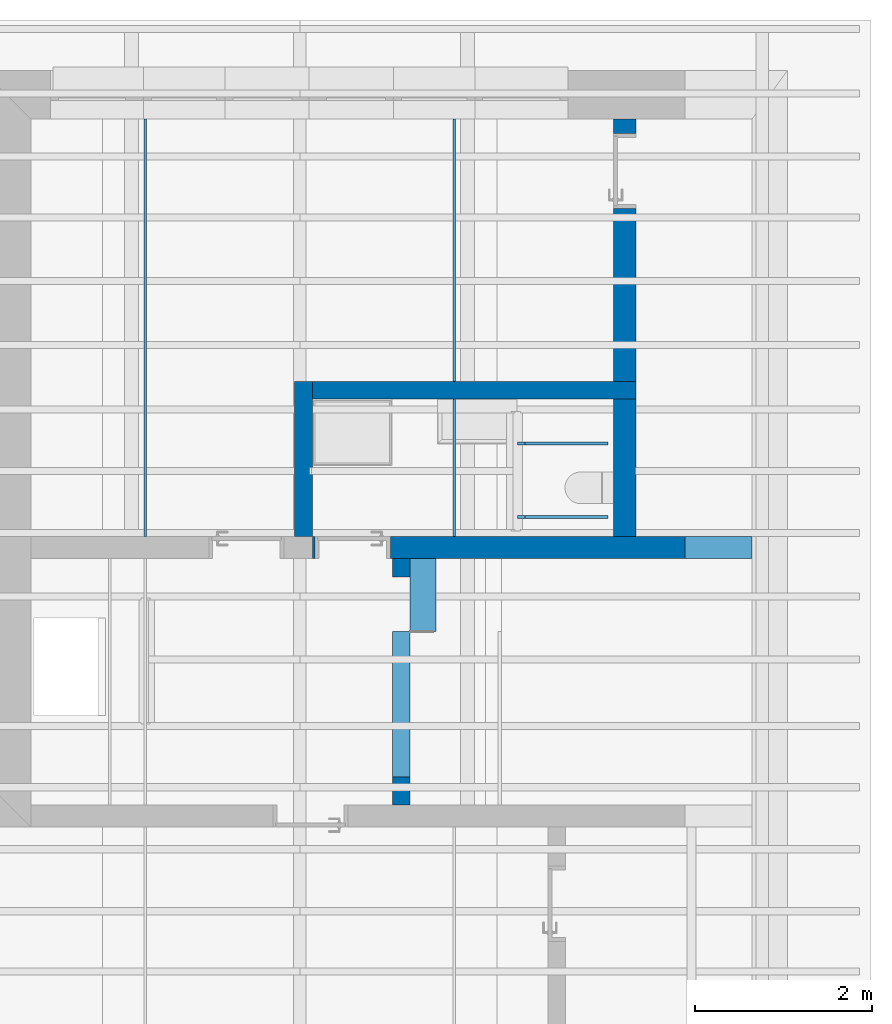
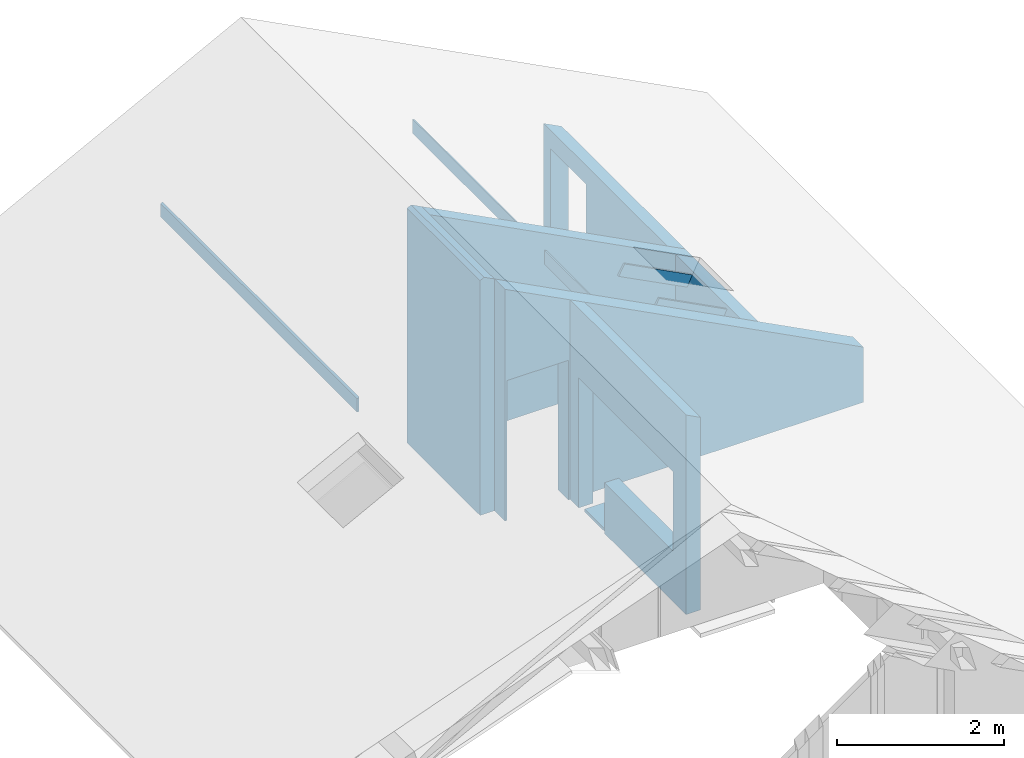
# One storey, part 9 of 18: 10 walls, 1 stair flight, 2 openings, 1 element without a shape of its own.
"""IFC2X3 building model written with IfcOpenShell, lengths in metres."""

from ifc_helpers import new_model, entity, si_unit, converted_unit, derived_unit, direction, frame, frame_2d, origin, place, context, subcontext, project, spatial, polyline, rectangle, extrude, clip, halfspace, bounded_halfspace, faceted_brep, material, layer, layer_set, layer_usage, type_object, element, aggregate, save


model = new_model("IFC2X3")

# Units and contexts
model_context = context("Model", 3, precision=1e-05, world=origin(), true_north=direction((6.123233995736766e-17, 1.0)))
body_context = subcontext(model_context, "Body", "Model", "MODEL_VIEW")
ifc_project = project(units=[si_unit("LENGTHUNIT", "METRE"), si_unit("AREAUNIT", "SQUARE_METRE"), si_unit("VOLUMEUNIT", "CUBIC_METRE"), si_unit("POWERUNIT", "WATT"), derived_unit("USERDEFINED", [(si_unit("MASSUNIT", "GRAM", prefix="KILO"), 1), (si_unit("TIMEUNIT", "SECOND"), -3)]), derived_unit("THERMALRESISTANCEUNIT", [(si_unit("MASSUNIT", "GRAM", prefix="KILO"), -1), (si_unit("TIMEUNIT", "SECOND"), 3), (si_unit("THERMODYNAMICTEMPERATUREUNIT", "KELVIN"), 1)]), derived_unit("USERDEFINED", [(si_unit("MASSUNIT", "GRAM", prefix="KILO"), 1), (si_unit("TIMEUNIT", "SECOND"), -2), (si_unit("THERMODYNAMICTEMPERATUREUNIT", "KELVIN"), -1)]), derived_unit("THERMALTRANSMITTANCEUNIT", [(si_unit("MASSUNIT", "GRAM", prefix="KILO"), 1), (si_unit("TIMEUNIT", "SECOND"), -3), (si_unit("THERMODYNAMICTEMPERATUREUNIT", "KELVIN"), -1)]), converted_unit("PLANEANGLEUNIT", "DEGREE", entity("IfcPlaneAngleMeasure", 0.017453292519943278), si_unit("PLANEANGLEUNIT", "RADIAN"), dimensions=[0, 0, 0, 0, 0, 0, 0]), derived_unit("MOMENTOFINERTIAUNIT", [(si_unit("LENGTHUNIT", "METRE"), 4)])], contexts=[model_context])

# Site, building, storey
site_placement = place(None, origin())
site = spatial("IfcSite", under=ifc_project, at=site_placement, Name="Default", CompositionType="ELEMENT")
building_placement = place(site_placement, origin())
building = spatial("IfcBuilding", under=site, at=building_placement, CompositionType="ELEMENT")
storey_placement = place(building_placement, frame((0.0, 0.0, 5.4)))
storey = spatial("IfcBuildingStorey", under=building, at=storey_placement, Name="1. Obergeschoss", CompositionType="ELEMENT", Elevation=5.4)

# Walls
ifc_material_1 = material(Name="Mauerwerk - Ziegel")
ifc_layer_1 = layer(ifc_material_1, 0.2)
ifc_layer_set_1 = layer_set([ifc_layer_1], Name="Basiswand:Ziegel 200")
ifc_layer_usage_1 = layer_usage(ifc_layer_set_1, "AXIS2", "POSITIVE", -0.1)
wall_type_1 = type_object("IfcWallType", Name="Basiswand:Ziegel 200", PredefinedType="STANDARD", material=ifc_layer_set_1)
wall_1_placement = place(storey_placement, frame((33.16526057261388, 23.33227237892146, 0.0), z_axis=(0.0, 0.0, 1.0), x_axis=(0.0, 1.0, 0.0)))
element("IfcWallStandardCase", 1, at=wall_1_placement, inside=storey, type_object=wall_type_1, material=ifc_layer_usage_1, Name="Basiswand:Ziegel 200", ObjectType="Basiswand:Ziegel 200", context=body_context, shape_type="Clipping", body=[
    clip(clip(extrude(rectangle(XDim=1.749999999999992, YDim=0.19999999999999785, at=frame_2d((0.874999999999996, 0.0), x_axis=(-1.0, 0.0))), origin(), (0.0, 0.0, 1.0), 3.4651574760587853), bounded_halfspace(frame((1.749999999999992, 0.04273123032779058, 3.4651574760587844), z_axis=(0.0, 0.4617486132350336, 0.8870108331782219), x_axis=(-1.0, 0.0, 0.0)), False, frame((1.749999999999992, 0.04273123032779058, 3.4651574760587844)), polyline([(0.0, 0.0), (0.0, 0.05726876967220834), (-1.749999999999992, 0.05726876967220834), (-1.749999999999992, 0.0), (0.0, 0.0)]))), bounded_halfspace(frame((0.0, -0.09999999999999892, 3.3908563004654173), z_axis=(0.0, -0.4617486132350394, 0.8870108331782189), x_axis=(1.0, 0.0, 0.0)), False, frame((0.0, -0.09999999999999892, 3.3908563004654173)), polyline([(0.0, 0.0), (1.5499999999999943, 0.0), (1.749999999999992, 0.0), (1.749999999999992, 0.14273123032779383), (0.0, 0.14273123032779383), (0.0, 0.0)]))),
])
ifc_layer_usage_2 = layer_usage(ifc_layer_set_1, "AXIS2", "POSITIVE", -0.1)
wall_2_placement = place(storey_placement, frame((33.265260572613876, 24.982272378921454, 0.0)))
element("IfcWallStandardCase", 2, at=wall_2_placement, inside=storey, type_object=wall_type_1, material=ifc_layer_usage_2, Name="Basiswand:Ziegel 200", ObjectType="Basiswand:Ziegel 200", context=body_context, shape_type="Clipping", body=[
    clip(extrude(rectangle(XDim=3.6499999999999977, YDim=0.19999999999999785, at=frame_2d((1.8249999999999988, 1.0408340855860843e-16), x_axis=(-1.0, 0.0))), origin(), (0.0, 0.0, 1.0), 3.3908563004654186), bounded_halfspace(frame((0.0, -0.09999999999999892, 3.3908563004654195), z_axis=(0.4617486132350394, 0.0, 0.8870108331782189), x_axis=(0.0, 1.0, 0.0)), False, frame((0.0, -0.09999999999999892, 3.3908563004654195)), polyline([(0.0, 0.0), (3.4000000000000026, 0.0), (3.6499999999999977, 0.0), (3.649999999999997, 0.19999999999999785), (3.3999999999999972, 0.19999999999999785), (0.0, 0.19999999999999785), (0.0, 0.0)]))),
])
wall_3_placement = place(storey_placement, frame((34.26875489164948, 20.302272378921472, 0.0), z_axis=(0.0, 0.0, 1.0), x_axis=(0.0, 1.0, 0.0)))
element("IfcWall", 3, at=wall_3_placement, inside=storey, type_object=wall_type_1, Name="Basiswand:Ziegel 200", ObjectType="Basiswand:Ziegel 200", context=body_context, shape_type="Brep", body=[
    faceted_brep([(2.574780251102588, -0.10000000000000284, 0.0), (2.77999999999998, -0.10000000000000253, 0.0), (2.77999999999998, -0.10000000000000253, 2.8164135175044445), (0.0, -0.09999999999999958, 2.8164135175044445), (0.0, -0.09999999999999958, 0.0), (1.9603996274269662, -0.10000000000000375, 0.0), (1.9603996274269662, -0.10000000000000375, 0.7399999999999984), (0.31478025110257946, -0.0999999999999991, 0.7399999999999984), (0.31478025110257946, -0.0999999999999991, 1.8999999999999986), (2.5747802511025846, -0.10000000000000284, 1.9000000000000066), (2.77999999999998, 0.0999999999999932, 0.0), (2.574780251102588, 0.0999999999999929, 0.0), (2.5747802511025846, 0.0999999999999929, 1.9000000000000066), (0.31478025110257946, 0.09999999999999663, 1.8999999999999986), (0.31478025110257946, 0.09999999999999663, 0.7399999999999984), (1.9603996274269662, 0.09999999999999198, 0.7399999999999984), (1.9603996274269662, 0.09999999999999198, 0.0), (0.0, 0.09999999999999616, 0.0), (0.0, 0.09999999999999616, 2.9205269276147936), (2.77999999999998, 0.0999999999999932, 2.9205269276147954)], [[[0, 1, 2, 3, 4, 5, 6, 7, 8, 9]], [[10, 11, 12, 13, 14, 15, 16, 17, 18, 19]], [[17, 4, 3, 18]], [[3, 2, 19, 18]], [[1, 10, 19, 2]], [[1, 0, 11, 10]], [[5, 4, 17, 16]], [[6, 5, 16, 15]], [[7, 6, 15, 14]], [[8, 7, 14, 13]], [[9, 8, 13, 12]], [[0, 9, 12, 11]]]),
])

# Wall, opening
ifc_layer_2 = layer(ifc_material_1, 0.24999999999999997)
ifc_layer_set_2 = layer_set([ifc_layer_2], Name="Basiswand:Ziegel 250")
ifc_layer_usage_3 = layer_usage(ifc_layer_set_2, "AXIS2", "POSITIVE", -0.12499999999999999)
wall_type_2 = type_object("IfcWallType", Name="Basiswand:Ziegel 250", PredefinedType="STANDARD", material=ifc_layer_set_2)
wall_4_placement = place(storey_placement, frame((36.790260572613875, 25.082272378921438, 0.0), z_axis=(0.0, 0.0, 1.0), x_axis=(0.0, 1.0, 0.0)))
wall_4 = element("IfcWallStandardCase", 4, at=wall_4_placement, inside=storey, type_object=wall_type_2, material=ifc_layer_usage_3, Name="Basiswand:Ziegel 250", ObjectType="Basiswand:Ziegel 250", context=body_context, shape_type="Clipping", body=[
    clip(extrude(rectangle(XDim=2.96000000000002, YDim=0.2499999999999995, at=frame_2d((1.48000000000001, 2.1718737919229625e-15), x_axis=(1.0, 0.0))), origin(), (0.0, 0.0, 1.0), 1.6209283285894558), bounded_halfspace(frame((0.0, -0.12499999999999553, 1.4907865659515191), z_axis=(0.0, -0.4617486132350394, 0.8870108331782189), x_axis=(1.0, 0.0, 0.0)), False, frame((0.0, -0.12499999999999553, 1.4907865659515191)), polyline([(0.0, 0.0), (2.96000000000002, 0.0), (2.96000000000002, 0.24999999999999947), (0.0, 0.24999999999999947), (0.0, 0.0)]))),
])
opening_1_placement = place(wall_4_placement, frame((1.9500000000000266, -0.12500000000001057, -0.18000000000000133)))
element("IfcOpeningElement", 5, at=opening_1_placement, cuts=wall_4, Name="TU DF 1 - Rahmenstock flächenbündig:DL - 720 x 1300:1", ObjectType="Opening", context=body_context, shape_type="SweptSolid", body=[
    extrude(rectangle(XDim=1.5249999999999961, YDim=0.8499999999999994, at=frame_2d((0.7624999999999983, 0.4250000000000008), x_axis=(-1.0, 0.0))), frame((0.0, 0.0, 0.0), z_axis=(0.0, 1.0, 0.0), x_axis=(0.0, 0.0, 1.0)), (0.0, 0.0, 1.0), 0.24999999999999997),
])

# Wall
ifc_layer_usage_4 = layer_usage(ifc_layer_set_2, "AXIS2", "NEGATIVE", 0.12499999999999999)
wall_5_placement = place(storey_placement, frame((36.790260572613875, 24.882272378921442, 0.0), z_axis=(0.0, 0.0, 1.0), x_axis=(0.0, -1.0, 0.0)))
element("IfcWallStandardCase", 6, at=wall_5_placement, inside=storey, type_object=wall_type_2, material=ifc_layer_usage_4, Name="Basiswand:Ziegel 250", ObjectType="Basiswand:Ziegel 250", context=body_context, shape_type="Clipping", body=[
    clip(extrude(rectangle(XDim=1.5499999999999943, YDim=0.25000000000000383, at=frame_2d((0.7749999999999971, -6.938893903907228e-17), x_axis=(-1.0, 0.0))), origin(), (0.0, 0.0, 1.0), 1.6209283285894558), bounded_halfspace(frame((0.0, -0.12499999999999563, 1.6209283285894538), z_axis=(0.0, 0.4617486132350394, 0.8870108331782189), x_axis=(-1.0, 0.0, 0.0)), False, frame((0.0, -0.12499999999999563, 1.6209283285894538)), polyline([(0.0, 0.0), (1.5499999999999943, 0.0), (1.5499999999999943, 0.24999999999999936), (0.0, 0.24999999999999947), (0.0, 0.0)]))),
])

# Wall, opening
ifc_layer_usage_5 = layer_usage(ifc_layer_set_2, "AXIS2", "NEGATIVE", 0.12499999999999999)
wall_6_placement = place(storey_placement, frame((38.22672000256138, 23.207272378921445, 0.0), z_axis=(0.0, 0.0, 1.0), x_axis=(-1.0, 0.0, 0.0)))
wall_6 = element("IfcWallStandardCase", 7, at=wall_6_placement, inside=storey, type_object=wall_type_2, material=ifc_layer_usage_5, Name="Basiswand:Ziegel 250", ObjectType="Basiswand:Ziegel 250", context=body_context, shape_type="Clipping", body=[
    clip(extrude(rectangle(XDim=4.9614594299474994, YDim=0.2499999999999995, at=frame_2d((2.4807297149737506, 2.9906632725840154e-15), x_axis=(1.0, 0.0))), origin(), (0.0, 0.0, 1.0), 3.3908563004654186), bounded_halfspace(frame((0.0, -0.12499999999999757, 0.8080839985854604), z_axis=(-0.4617486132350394, 0.0, 0.8870108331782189), x_axis=(0.0, -1.0, 0.0)), False, frame((0.0, -0.12499999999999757, 0.8080839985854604)), polyline([(0.0, 0.0), (1.3114594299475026, 0.0), (1.5614594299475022, 0.0), (4.9614594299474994, 0.0), (4.961459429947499, 0.25000000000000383), (4.05796511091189, 0.25000000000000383), (3.8579651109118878, 0.25000000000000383), (0.0, 0.2499999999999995), (0.0, 0.0)]))),
])
opening_2_placement = place(wall_6_placement, frame((4.9314594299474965, 0.12499999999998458, -0.18000000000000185)))
element("IfcOpeningElement", 8, at=opening_2_placement, cuts=wall_6, Name="TU DF 1 - Rahmenstock flächenbündig:DL - 720 x 2000:1", ObjectType="Opening", context=body_context, shape_type="SweptSolid", body=[
    extrude(rectangle(XDim=2.224999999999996, YDim=0.8499999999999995, at=frame_2d((1.1124999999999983, 0.4250000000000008), x_axis=(-1.0, 0.0))), frame((0.0, 0.0, 0.0), z_axis=(0.0, -1.0, 0.0), x_axis=(0.0, 0.0, 1.0)), (0.0, 0.0, 1.0), 0.24999999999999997),
])

# Walls
ifc_material_2 = material(Name="Trockenbau - Gipsplatte")
ifc_layer_3 = layer(ifc_material_2, 0.03)
ifc_layer_set_3 = layer_set([ifc_layer_3], Name="Basiswand:1OG Wand 30")
ifc_layer_usage_6 = layer_usage(ifc_layer_set_3, "AXIS2", "NEGATIVE", 0.015)
wall_type_3 = type_object("IfcWallType", Name="Basiswand:1OG Wand 30", PredefinedType="STANDARD", material=ifc_layer_set_3)
wall_7_placement = place(storey_placement, frame((31.379014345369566, 28.04227237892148, 2.106853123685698), z_axis=(0.0, 0.0, 1.0), x_axis=(0.0, -1.0, 0.0)))
element("IfcWallStandardCase", 9, at=wall_7_placement, inside=storey, type_object=wall_type_3, material=ifc_layer_usage_6, Name="Basiswand:1OG Wand 30", ObjectType="Basiswand:1OG Wand 30", context=body_context, shape_type="Clipping", body=[
    clip(extrude(rectangle(XDim=4.710000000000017, YDim=0.030000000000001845, at=frame_2d((2.3550000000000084, 5.134781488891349e-16), x_axis=(-1.0, 0.0))), origin(), (0.0, 0.0, 1.0), 0.21097205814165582), bounded_halfspace(frame((0.0, -0.015000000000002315, 0.19580232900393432), z_axis=(7.052788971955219e-06, -0.4512481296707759, 0.8923985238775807), x_axis=(1.0, 0.0, -7.903183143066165e-06)), False, frame((0.0, -0.015000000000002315, 0.19580232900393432), z_axis=(7.052788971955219e-06, -0.4512481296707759, 0.8923985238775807), x_axis=(1.0, 0.0, -7.903183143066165e-06)), polyline([(0.0, 0.0), (5.277911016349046, 0.0), (5.277910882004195, 0.03767068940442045), (-1.3434485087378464e-07, 0.03767068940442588), (0.0, 0.0)]))),
])
wall_8_placement = place(storey_placement, frame((34.86606672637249, 28.042272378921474, 2.1089604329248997), z_axis=(0.0, 0.0, 1.0), x_axis=(0.0, -1.0, 0.0)))
element("IfcWall", 10, at=wall_8_placement, inside=storey, type_object=wall_type_3, Name="Basiswand:1OG Wand 30", ObjectType="Basiswand:1OG Wand 30", context=body_context, shape_type="Brep", body=[
    faceted_brep([(0.0, -0.015000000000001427, 0.20892724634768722), (0.0, -0.015000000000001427, 0.0), (2.9600000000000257, -0.015000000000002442, 0.0), (2.9600000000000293, -0.015000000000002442, 0.20890385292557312), (0.0, 0.01499999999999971, 0.0), (2.9600000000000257, 0.014999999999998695, 0.0), (0.0, 0.01499999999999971, 0.1937582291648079), (2.9599999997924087, 0.0150000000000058, 0.19373483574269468)], [[[0, 1, 2, 3]], [[1, 4, 5, 2]], [[4, 1, 0, 6]], [[3, 2, 5, 7]], [[6, 0, 3, 7]], [[4, 6, 7, 5]]]),
    faceted_brep([(4.710000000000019, 0.015000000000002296, 0.19372100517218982), (4.710000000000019, 0.015000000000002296, 0.0), (3.160000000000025, 0.014999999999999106, 0.0), (3.1600000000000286, 0.014999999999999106, 0.1937332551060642), (4.710000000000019, -0.01499999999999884, 0.20889002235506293), (3.1600000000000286, -0.01500000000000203, 0.20890227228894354), (3.160000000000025, -0.01500000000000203, 0.0), (4.710000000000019, -0.01499999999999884, 0.0)], [[[0, 1, 2, 3]], [[4, 0, 3, 5]], [[6, 5, 3, 2]], [[7, 1, 0, 4]], [[1, 7, 6, 2]], [[7, 4, 5, 6]]]),
])
ifc_layer_usage_7 = layer_usage(ifc_layer_set_3, "AXIS2", "NEGATIVE", 0.015)
wall_9_placement = place(storey_placement, frame((36.6005926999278, 23.552272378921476, 1.49909062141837), z_axis=(0.0, 0.0, 1.0), x_axis=(-1.0, 0.0, 0.0)))
element("IfcWallStandardCase", 11, at=wall_9_placement, inside=storey, type_object=wall_type_3, material=ifc_layer_usage_7, Name="Basiswand:1OG Wand 30", ObjectType="Basiswand:1OG Wand 30", context=body_context, shape_type="Clipping", body=[
    clip(clip(clip(clip(extrude(rectangle(XDim=1.0181979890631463, YDim=0.030000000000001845, at=frame_2d((0.5090989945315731, 0.0), x_axis=(-1.0, 0.0))), origin(), (0.0, 0.0, 1.0), 0.6422720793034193), halfspace(frame((0.06941211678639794, -0.015000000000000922, 0.0), z_axis=(-0.9131559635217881, 0.0, -0.40761033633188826), x_axis=(0.0, 1.0, 0.0)), False)), halfspace(frame((1.0181979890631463, -0.015000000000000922, 0.48990541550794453), z_axis=(0.4587978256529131, 0.0, -0.8885406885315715), x_axis=(0.0, 1.0, 0.0)), False)), halfspace(frame((0.9350772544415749, -0.015000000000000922, 0.6422720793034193), z_axis=(0.877867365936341, 0.0, 0.4789038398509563), x_axis=(0.0, 1.0, 0.0)), False)), halfspace(frame((0.0, -0.015000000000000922, 0.1555016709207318), z_axis=(-0.461748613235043, 0.0, 0.887010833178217), x_axis=(0.0, 1.0, 0.0)), False)),
])
ifc_layer_usage_8 = layer_usage(ifc_layer_set_3, "AXIS2", "NEGATIVE", 0.015)
wall_10_placement = place(storey_placement, frame((36.6005926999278, 24.382272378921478, 1.4990906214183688), z_axis=(0.0, 0.0, 1.0), x_axis=(-1.0, 0.0, 0.0)))
element("IfcWallStandardCase", 12, at=wall_10_placement, inside=storey, type_object=wall_type_3, material=ifc_layer_usage_8, Name="Basiswand:1OG Wand 30", ObjectType="Basiswand:1OG Wand 30", context=body_context, shape_type="Clipping", body=[
    clip(clip(clip(clip(extrude(rectangle(XDim=1.0181979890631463, YDim=0.030000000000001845, at=frame_2d((0.5090989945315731, 0.0), x_axis=(-1.0, 0.0))), origin(), (0.0, 0.0, 1.0), 0.6422720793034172), halfspace(frame((0.06941211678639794, -0.015000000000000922, 0.0), z_axis=(-0.9131559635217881, 0.0, -0.40761033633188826), x_axis=(0.0, 1.0, 0.0)), False)), halfspace(frame((1.0181979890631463, -0.015000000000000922, 0.4899054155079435), z_axis=(0.45879782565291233, 0.0, -0.888540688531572), x_axis=(0.0, 1.0, 0.0)), False)), halfspace(frame((0.9350772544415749, -0.015000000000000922, 0.6422720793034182), z_axis=(0.877867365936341, 0.0, 0.4789038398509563), x_axis=(0.0, 1.0, 0.0)), False)), halfspace(frame((0.0, -0.015000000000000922, 0.1555016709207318), z_axis=(-0.4617486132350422, 0.0, 0.8870108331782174), x_axis=(0.0, 1.0, 0.0)), False)),
])

# Stair, stair flight
type_product = type_object("IfcTypeProduct", Name="Zusammengebaute Treppe:Wangen Stahl - Stufen Holz - 1 Stockwerkstrennlinie")
stair_placement = place(storey_placement, origin())
stair = element("IfcStair", 13, at=stair_placement, inside=storey, type_object=type_product, Name="Zusammengebaute Treppe:Treppe", ObjectType="Zusammengebaute Treppe:Wangen Stahl - Stufen Holz - 1 Stockwerkstrennlinie", ShapeType="STRAIGHT_RUN_STAIR")
ifc_material_3 = material(Name="Holz - generisch 140-100-70")
stair_flight_type = type_object("IfcStairFlightType", Name="Treppenlauf (nicht massiv):Holz_40 mm Auftritt", PredefinedType="NOTDEFINED")
stair_flight_placement = place(stair_placement, frame((34.36875489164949, 22.262272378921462, 0.0)))
stair_flight = element("IfcStairFlight", 14, at=stair_flight_placement, type_object=stair_flight_type, material=ifc_material_3, Name="Zusammengebaute Treppe:Treppe:2595612 Run 1", ObjectType="Treppenlauf (nicht massiv):Holz_40 mm Auftritt", NumberOfRiser=2, NumberOfTreads=1, RiserHeight=0.28707349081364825, TreadLength=1.509186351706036, context=body_context, shape_type="SweptSolid", body=[
    extrude(rectangle(XDim=0.29000000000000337, YDim=0.8199999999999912, at=frame_2d((0.0, 2.1649348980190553e-15), x_axis=(1.0, 0.0))), frame((0.14500000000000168, 0.4099999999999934, -0.24999999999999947), z_axis=(0.0, 0.0, 1.0), x_axis=(-1.0, 0.0, 0.0)), (0.0, 0.0, 1.0), 0.03999999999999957),
])
aggregate(stair, [stair_flight])

save(model, "model.ifc")
